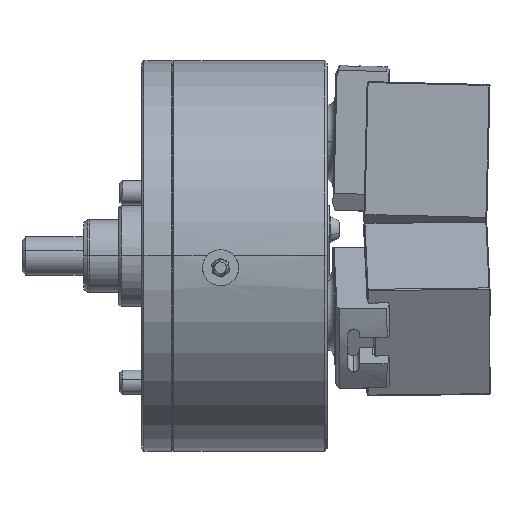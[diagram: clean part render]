
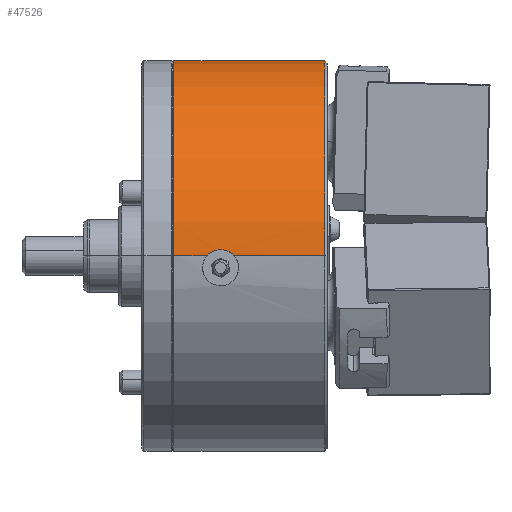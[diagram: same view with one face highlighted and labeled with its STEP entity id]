
A CAD part, top view. The second image highlights one B-rep face of the part: STEP entity #47526.
In plain terms, the highlighted cylindrical face has radius 81 mm (diameter 162 mm), a partial arc.
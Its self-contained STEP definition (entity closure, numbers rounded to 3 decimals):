
#3 = VERTEX_POINT ( 'NONE', #1098 ) ;
#70 = ORIENTED_EDGE ( 'NONE', *, *, #50357, .T. ) ;
#455 = DIRECTION ( 'NONE',  ( 0., 0., -1. ) ) ;
#1098 = CARTESIAN_POINT ( 'NONE',  ( -81., 0., -49.79 ) ) ;
#3020 = CARTESIAN_POINT ( 'NONE',  ( -81., 0., -49.79 ) ) ;
#3377 = CARTESIAN_POINT ( 'NONE',  ( -80.963, 2.445, -43.155 ) ) ;
#4072 = CARTESIAN_POINT ( 'NONE',  ( -81., 0., -38.61 ) ) ;
#4994 = VERTEX_POINT ( 'NONE', #49261 ) ;
#5876 = LINE ( 'NONE', #20756, #7178 ) ;
#6370 = DIRECTION ( 'NONE',  ( 0., 0., -1. ) ) ;
#7146 = CARTESIAN_POINT ( 'NONE',  ( -81., 0.39, -49.441 ) ) ;
#7178 = VECTOR ( 'NONE', #455, 1000. ) ;
#7325 = CARTESIAN_POINT ( 'NONE',  ( -80.997, 0.749, -49.045 ) ) ;
#7503 = CARTESIAN_POINT ( 'NONE',  ( -80.97, 2.213, -42.128 ) ) ;
#9865 = ORIENTED_EDGE ( 'NONE', *, *, #26338, .F. ) ;
#11420 = CARTESIAN_POINT ( 'NONE',  ( -80.984, 1.63, -47.746 ) ) ;
#11602 = AXIS2_PLACEMENT_3D ( 'NONE', #30724, #6370, #34829 ) ;
#11603 = CARTESIAN_POINT ( 'NONE',  ( -80.976, 1.955, -41.382 ) ) ;
#13445 = VERTEX_POINT ( 'NONE', #4072 ) ;
#15518 = CARTESIAN_POINT ( 'NONE',  ( -80.974, 2.049, -46.775 ) ) ;
#15695 = CARTESIAN_POINT ( 'NONE',  ( -80.989, 1.373, -40.21 ) ) ;
#16185 = CARTESIAN_POINT ( 'NONE',  ( 81., 0., -30.978 ) ) ;
#17251 = AXIS2_PLACEMENT_3D ( 'NONE', #23917, #52482, #28029 ) ;
#19185 = B_SPLINE_CURVE_WITH_KNOTS ( 'NONE', 3,
 ( #3020, #7146, #7325, #35789, #11420, #39896, #15518, #43988, #19582, #48051, #23677, #52236, #27780, #3377, #31859, #7503, #35961, #11603, #40071, #15695, #44157, #19768, #48235 ),
 .UNSPECIFIED., .F., .F.,
 ( 4, 2, 2, 2, 1, 2, 2, 2, 2, 2, 2, 4 ),
 ( 0.034, 0.036, 0.038, 0.038, 0.039, 0.04, 0.041, 0.042, 0.043, 0.044, 0.045, 0.047 ),
 .UNSPECIFIED. ) ;
#19541 = CIRCLE ( 'NONE', #17251, 81. ) ;
#19582 = CARTESIAN_POINT ( 'NONE',  ( -80.966, 2.348, -45.771 ) ) ;
#19768 = CARTESIAN_POINT ( 'NONE',  ( -81., 0.395, -38.963 ) ) ;
#20756 = CARTESIAN_POINT ( 'NONE',  ( -81., 0., -30.978 ) ) ;
#20760 = DIRECTION ( 'NONE',  ( 0., 0., -1. ) ) ;
#21183 = VECTOR ( 'NONE', #48218, 1000. ) ;
#21277 = ORIENTED_EDGE ( 'NONE', *, *, #39894, .T. ) ;
#21316 = CARTESIAN_POINT ( 'NONE',  ( 81., 0., -1. ) ) ;
#23677 = CARTESIAN_POINT ( 'NONE',  ( -80.962, 2.486, -44.73 ) ) ;
#23917 = CARTESIAN_POINT ( 'NONE',  ( 0., 0., -63.6 ) ) ;
#26338 = EDGE_CURVE ( 'NONE', #3, #31320, #46983, .T. ) ;
#27095 = ORIENTED_EDGE ( 'NONE', *, *, #38849, .F. ) ;
#27780 = CARTESIAN_POINT ( 'NONE',  ( -80.961, 2.5, -43.675 ) ) ;
#28029 = DIRECTION ( 'NONE',  ( -1., 0., 0. ) ) ;
#28283 = DIRECTION ( 'NONE',  ( 0., 0., -1. ) ) ;
#30062 = VERTEX_POINT ( 'NONE', #21316 ) ;
#30724 = CARTESIAN_POINT ( 'NONE',  ( 0., 0., -1. ) ) ;
#30735 = LINE ( 'NONE', #16185, #21183 ) ;
#31010 = CYLINDRICAL_SURFACE ( 'NONE', #52109, 81. ) ;
#31291 = EDGE_CURVE ( 'NONE', #3, #13445, #19185, .T. ) ;
#31320 = VERTEX_POINT ( 'NONE', #48782 ) ;
#31859 = CARTESIAN_POINT ( 'NONE',  ( -80.968, 2.282, -42.385 ) ) ;
#32309 = FACE_OUTER_BOUND ( 'NONE', #49417, .T. ) ;
#32353 = CARTESIAN_POINT ( 'NONE',  ( -81., 0., -30.978 ) ) ;
#34372 = ORIENTED_EDGE ( 'NONE', *, *, #31291, .T. ) ;
#34783 = CARTESIAN_POINT ( 'NONE',  ( -81., 0., -1. ) ) ;
#34829 = DIRECTION ( 'NONE',  ( -1., 0., 0. ) ) ;
#35789 = CARTESIAN_POINT ( 'NONE',  ( -80.989, 1.367, -48.198 ) ) ;
#35961 = CARTESIAN_POINT ( 'NONE',  ( -80.974, 2.05, -41.626 ) ) ;
#37117 = DIRECTION ( 'NONE',  ( -1., 0., 0. ) ) ;
#38849 = EDGE_CURVE ( 'NONE', #49026, #13445, #5876, .T. ) ;
#39894 = EDGE_CURVE ( 'NONE', #49026, #30062, #40229, .T. ) ;
#39896 = CARTESIAN_POINT ( 'NONE',  ( -80.977, 1.953, -47.023 ) ) ;
#40071 = CARTESIAN_POINT ( 'NONE',  ( -80.984, 1.635, -40.665 ) ) ;
#40229 = CIRCLE ( 'NONE', #11602, 81. ) ;
#43988 = CARTESIAN_POINT ( 'NONE',  ( -80.97, 2.212, -46.276 ) ) ;
#44157 = CARTESIAN_POINT ( 'NONE',  ( -80.997, 0.749, -39.354 ) ) ;
#46902 = ORIENTED_EDGE ( 'NONE', *, *, #47984, .F. ) ;
#46983 = LINE ( 'NONE', #32353, #48262 ) ;
#47526 = ADVANCED_FACE ( 'NONE', ( #32309 ), #31010, .T. ) ;
#47984 = EDGE_CURVE ( 'NONE', #31320, #4994, #19541, .T. ) ;
#48051 = CARTESIAN_POINT ( 'NONE',  ( -80.964, 2.43, -45.254 ) ) ;
#48218 = DIRECTION ( 'NONE',  ( 0., 0., -1. ) ) ;
#48235 = CARTESIAN_POINT ( 'NONE',  ( -81., 0., -38.61 ) ) ;
#48262 = VECTOR ( 'NONE', #28283, 1000. ) ;
#48782 = CARTESIAN_POINT ( 'NONE',  ( -81., 0., -63.6 ) ) ;
#49026 = VERTEX_POINT ( 'NONE', #34783 ) ;
#49261 = CARTESIAN_POINT ( 'NONE',  ( 81., 0., -63.6 ) ) ;
#49417 = EDGE_LOOP ( 'NONE', ( #21277, #70, #46902, #9865, #34372, #27095 ) ) ;
#49432 = CARTESIAN_POINT ( 'NONE',  ( 0., 0., -30.978 ) ) ;
#50357 = EDGE_CURVE ( 'NONE', #30062, #4994, #30735, .T. ) ;
#52109 = AXIS2_PLACEMENT_3D ( 'NONE', #49432, #20760, #37117 ) ;
#52236 = CARTESIAN_POINT ( 'NONE',  ( -80.961, 2.5, -44.464 ) ) ;
#52482 = DIRECTION ( 'NONE',  ( 0., 0., -1. ) ) ;
